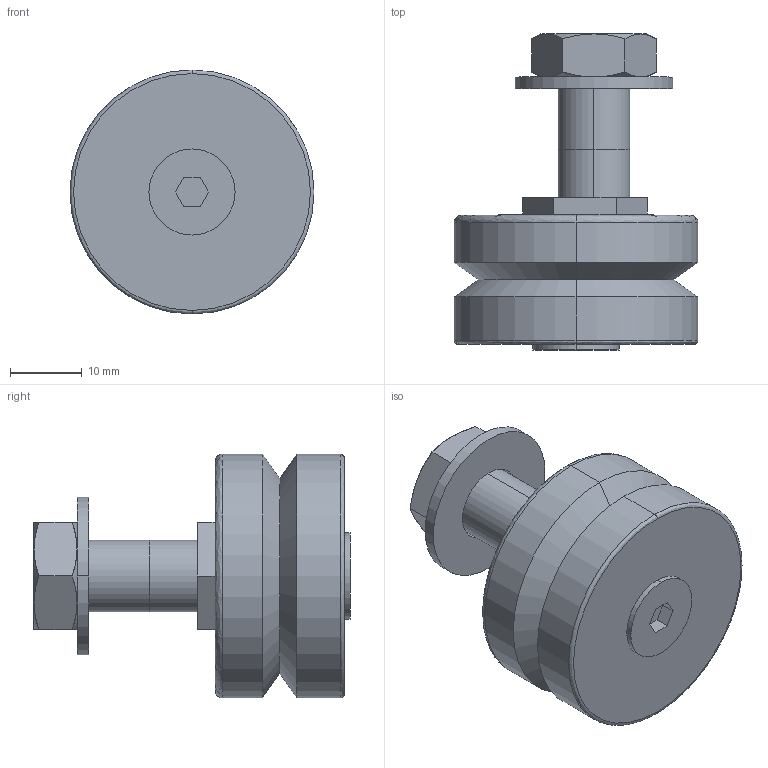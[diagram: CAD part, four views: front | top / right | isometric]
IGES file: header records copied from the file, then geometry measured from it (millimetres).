
Start section: 3D InterOp IGES (Version 21 0 1), Spatial Corp. Copyright (c) 1999-2007.
Global section: file name: NAL-34-EW.igs; native system: Spatial Corp.; preprocessor: 3D InterOp GENERIC/IGES 3.0; author: Noname; organization: Noname; date: 20220311.162750; units: millimetre
Bounding box: 34 x 44.05 x 34 mm (x, y, z)
Surface area: 6343.4 mm2 (no closed solid volume)
Topology: 0 solids, 0 shells, 74 faces, 328 edges, 328 vertices
Faces by surface type: revolution 40, extrusion 34
